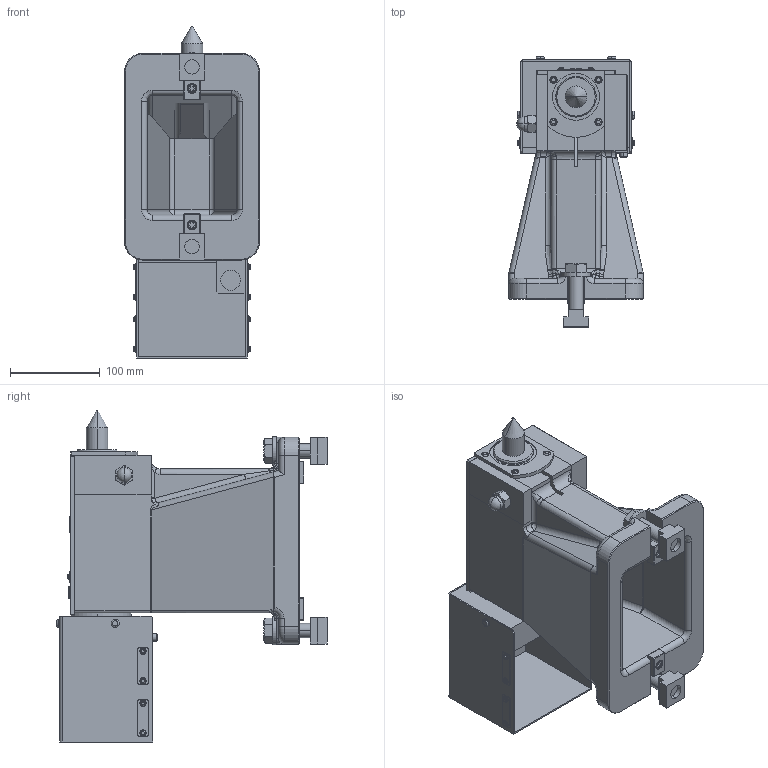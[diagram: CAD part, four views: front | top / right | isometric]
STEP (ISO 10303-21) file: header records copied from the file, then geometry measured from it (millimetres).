
FILE_DESCRIPTION (( 'STEP AP214' ), '1' );
FILE_NAME ('MR320A(H)N／TS320A(H)N.STEP', '2020-03-20T05:34:29', ( '' ), ( '' ), 'SwSTEP 2.0', 'SolidWorks 2017', '' );
FILE_SCHEMA (( 'AUTOMOTIVE_DESIGN' ));
Length unit declared in the file: millimetre
Products named in the file (13): MR320A(H)N／TS320A(H)N; CLAMPING PARTS(61E4343671)結合; MR320A(H)N儂儞僞僀; シールホルダ(61E4300661)RS016RSA; フクロナット　ツイカコウ(61E4712370)TS200HN; 僇僶乕PAD(61E8155783)TS200HN; センタソケット; ネームプレート(61E4736691); カバー(61E4494422)TS200RH12; クランププレートＢ(61E427913); クランププレートＡ(61E427912); ガイドブロック(61M4197783); ボデー(61E2474282)MR320RN
Assembly tree (14 placements, depth 3):
  MR320A(H)N／TS320A(H)N
    MR320A(H)N儂儞僞僀
      ボデー(61E2474282)MR320RN
      ガイドブロック(61M4197783)  x2
      クランププレートＡ(61E427912)
      クランププレートＢ(61E427913)
      カバー(61E4494422)TS200RH12
      ネームプレート(61E4736691)
      センタソケット
      僇僶乕PAD(61E8155783)TS200HN
      フクロナット　ツイカコウ(61E4712370)TS200HN
      シールホルダ(61E4300661)RS016RSA
    CLAMPING PARTS(61E4343671)結合  x2
Bounding box: 150 x 300.9 x 369.51 mm (x, y, z)
Volume: 3548988 mm3; surface area: 557009.9 mm2
Topology: 13 solids, 13 shells, 2239 faces, 6017 edges, 3901 vertices
Faces by surface type: plane 1736, cylinder 292, bspline 73, cone 66, torus 66, sphere 6
Entity records: 75357 total; most frequent: CARTESIAN_POINT 15561, ORIENTED_EDGE 11642, DIRECTION 10520, EDGE_CURVE 5821, VECTOR 4922, LINE 4922, VERTEX_POINT 3799, AXIS2_PLACEMENT_3D 2799
